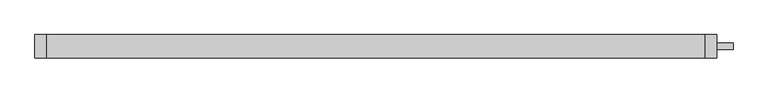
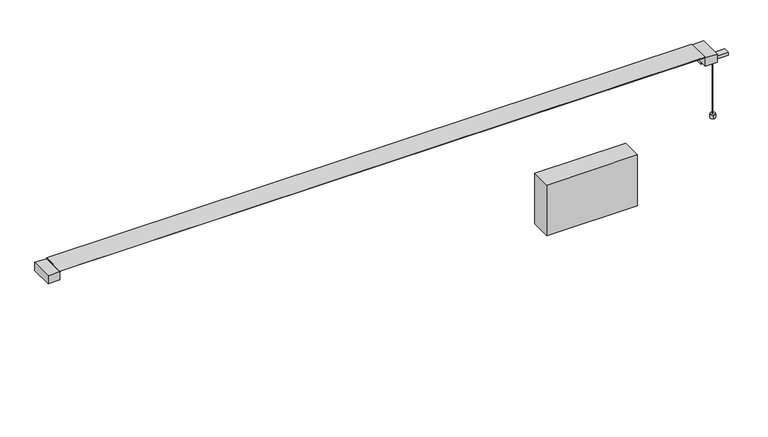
"""IFC4 building model written with IfcOpenShell, lengths in millimetres: light fixture geometry, Fabbian.Pivot F39 (F39 A01A 01,F39 A01A 21,F39 A01A 76,F39 A02A 01,F39 A02A 21,F39 A02A 76) : F39 A01A 01."""

from ifc_helpers import new_model, si_unit, point, frame, frame_2d, origin, origin_with_axes, place, context, project, spatial, polyline, circle_curve, trimmed, segment, composite_curve, outline, extrude, source, transform, mapped, element, save


def light_fixture_7c029200(model_context):
    return source(origin(), model_context, "Body", "SweptSolid", [
        extrude(outline(composite_curve([segment(trimmed(circle_curve(frame_2d((815.8132834, 0.0)), 0.4949808), [point((816.3082642, 0.0))], [point((815.3183026, 0.0))], False, "CARTESIAN"), True, "CONTINUOUS"), segment(trimmed(circle_curve(frame_2d((815.8132834, 0.0)), 0.4949808), [point((815.3183026, 0.0))], [point((816.3082642, 0.0))], False, "CARTESIAN"), True, "CONTINUOUS")], self_intersect=False)), origin_with_axes(), (0.0, 0.0, 1.0), 151.6242394),
        extrude(outline(polyline([(619.1350388, 24.9666442), (619.1350388, -25.0334567), (399.1348055, -25.0334567), (399.1348055, 24.9666442), (619.1350388, 24.9666442)])), frame((0.0, 0.0, -142.875), z_axis=(0.0, 0.0, 1.0), x_axis=(1.0, 0.0, 0.0)), (0.0, 0.0, 1.0), 130.175),
        extrude(outline(polyline([(-0.4107254, 159.893756), (-26.3879175, 181.0787506), (25.5497693, 181.0787506), (0.4107259, 159.893756), (0.4107259, 160.681594), (-0.4107254, 160.681594), (-0.4107254, 159.893756)])), frame((-782.3132834, 0.0, 0.0), z_axis=(1.0, 0.0, 0.0), x_axis=(0.0, 1.0, 0.0)), (0.0, 0.0, 1.0), 1564.6265668),
        extrude(outline(polyline([(-782.3132834, 27.7285043), (-782.3132834, -27.7953166), (-810.5140956, -27.7953166), (-810.5140956, 27.7285043), (-782.3132834, 27.7285043)])), frame((0.0, 0.0, 159.6242394), z_axis=(0.0, 0.0, 1.0), x_axis=(1.0, 0.0, 0.0)), (0.0, 0.0, 1.0), 20.8761838),
        extrude(outline(polyline([(782.3132834, 27.7285042), (810.5140956, 27.7285042), (810.5140956, -27.7953167), (782.3132834, -27.7953167), (782.3132834, 27.7285042)])), frame((0.0, 0.0, 159.6242394), z_axis=(0.0, 0.0, 1.0), x_axis=(1.0, 0.0, 0.0)), (0.0, 0.0, 1.0), 20.8761838),
        extrude(outline(polyline([(0.0, -0.8214513), (0.0, 0.0), (1564.6265668, 0.0), (1564.6265668, -0.8214513), (0.0, -0.8214513)])), frame((-782.3132834, 0.4107259, 159.893756), z_axis=(-5.7155291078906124e-11, 0.0, 1.0), x_axis=(1.0, 0.0, 5.7155291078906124e-11)), (0.0, 0.0, 1.0), 0.787838),
        extrude(outline(polyline([(781.7488887, -27.7780006), (-782.3132834, -27.7780006), (-782.3132834, 27.7779986), (781.7488887, 27.7779986), (781.7488887, -27.7780006)])), frame((0.0, 0.0, 181.0787506), z_axis=(0.0, 0.0, 1.0), x_axis=(1.0, 0.0, 0.0)), (0.0, 0.0, 1.0), 1.1514277),
        extrude(outline(composite_curve([segment(trimmed(circle_curve(frame_2d((815.8133121, -0.4556113)), 5.8155806), [point((816.6410047, 5.3007681))], [point((814.9856195, -6.2119906))], False, "CARTESIAN"), True, "CONTINUOUS"), segment(trimmed(circle_curve(frame_2d((815.8133121, -0.4556113)), 5.8155806), [point((814.9856195, -6.2119906))], [point((816.6410047, 5.3007681))], False, "CARTESIAN"), True, "CONTINUOUS")], self_intersect=False)), origin_with_axes(), (0.0, 0.0, 1.0), 9.6582083),
        extrude(outline(polyline([(849.3132834, -7.5334062), (782.3132834, -7.5334062), (782.3132834, 7.4665938), (849.3132834, 7.4665938), (849.3132834, -7.5334062)])), frame((0.0, 0.0, 151.6242394), z_axis=(0.0, 0.0, 1.0), x_axis=(1.0, 0.0, 0.0)), (0.0, 0.0, 1.0), 8.0),
    ])


if __name__ == "__main__":
    model = new_model("IFC4")
    model_context = context("Model", 3, world=origin())
    ifc_project = project(units=[si_unit("LENGTHUNIT", "METRE", prefix="MILLI")], contexts=[model_context])
    site = spatial("IfcSite", under=ifc_project)
    building = spatial("IfcBuilding", under=site)
    placement = place(None, origin())
    light_fixture_shape = light_fixture_7c029200(model_context)
    element("IfcLightFixture", 1, ObjectType="Fabbian.Pivot F39 (F39 A01A 01,F39 A01A 21,F39 A01A 76,F39 A02A 01,F39 A02A 21,F39 A02A 76) : F39 A01A 01", at=placement, inside=building, context=model_context, shape_type="MappedRepresentation", body=[
        mapped(light_fixture_shape, transform((0.0, 0.0, 0.0), x_axis=(1.0, 0.0, 0.0), y_axis=(0.0, 1.0, 0.0), z_axis=(0.0, 0.0, 1.0))),
    ])
    save(model, "model.ifc")
